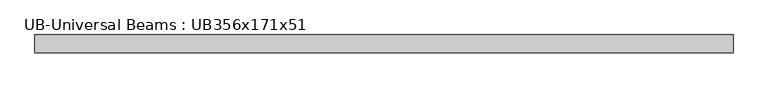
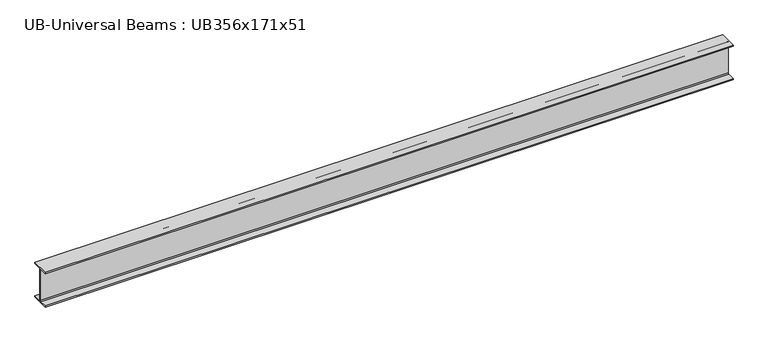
"""IFC4 building model written with IfcOpenShell, lengths in millimetres: beam geometry, UB-Universal Beams : UB356x171x51."""

from ifc_helpers import new_model, si_unit, point, frame, frame_2d, origin, place, context, project, spatial, polyline, circle_curve, trimmed, segment, composite_curve, outline, extrude, source, transform, mapped, element, save


def ub_universal_beams_ub356x171x51_4c9fd821(model_context):
    return source(origin(), model_context, "Body", "SweptSolid", [
        extrude(outline(composite_curve([segment(polyline([(85.75, -166.0), (85.75, -177.5), (-85.75, -177.5), (-85.75, -166.0), (-13.9, -166.0)]), True, "CONTINUOUS"), segment(trimmed(circle_curve(frame_2d((-13.9, -155.8)), 10.2), [point((-13.9, -166.0))], [point((-3.7, -155.8))], True, "CARTESIAN"), True, "CONTINUOUS"), segment(polyline([(-3.7, -155.8), (-3.7, 155.8)]), True, "CONTINUOUS"), segment(trimmed(circle_curve(frame_2d((-13.9, 155.8)), 10.2), [point((-3.7, 155.8))], [point((-13.9, 166.0))], True, "CARTESIAN"), True, "CONTINUOUS"), segment(polyline([(-13.9, 166.0), (-85.75, 166.0), (-85.75, 177.5), (85.75, 177.5), (85.75, 166.0), (13.9, 166.0)]), True, "CONTINUOUS"), segment(trimmed(circle_curve(frame_2d((13.9, 155.8)), 10.2), [point((13.9, 166.0))], [point((3.7, 155.8))], True, "CARTESIAN"), True, "CONTINUOUS"), segment(polyline([(3.7, 155.8), (3.7, -155.8)]), True, "CONTINUOUS"), segment(trimmed(circle_curve(frame_2d((13.9, -155.8)), 10.2), [point((3.7, -155.8))], [point((13.9, -166.0))], True, "CARTESIAN"), True, "CONTINUOUS"), segment(polyline([(13.9, -166.0), (85.75, -166.0)]), True, "CONTINUOUS")], self_intersect=False)), frame((-3333.8, 0.0, 0.0), z_axis=(1.0, 0.0, 0.0), x_axis=(0.0, 1.0, 0.0)), (0.0, 0.0, 1.0), 6667.6),
    ])


if __name__ == "__main__":
    model = new_model("IFC4")
    model_context = context("Model", 3, world=origin())
    ifc_project = project(units=[si_unit("LENGTHUNIT", "METRE", prefix="MILLI")], contexts=[model_context])
    site = spatial("IfcSite", under=ifc_project)
    building = spatial("IfcBuilding", under=site)
    placement = place(None, origin())
    ub_universal_beams_ub356x171x51_shape = ub_universal_beams_ub356x171x51_4c9fd821(model_context)
    element("IfcBeam", 1, ObjectType="UB-Universal Beams : UB356x171x51", at=placement, inside=building, context=model_context, shape_type="MappedRepresentation", body=[
        mapped(ub_universal_beams_ub356x171x51_shape, transform((0.0, 0.0, 0.0), x_axis=(1.0, 0.0, 0.0), y_axis=(0.0, 1.0, 0.0), z_axis=(0.0, 0.0, 1.0))),
    ])
    save(model, "model.ifc")
